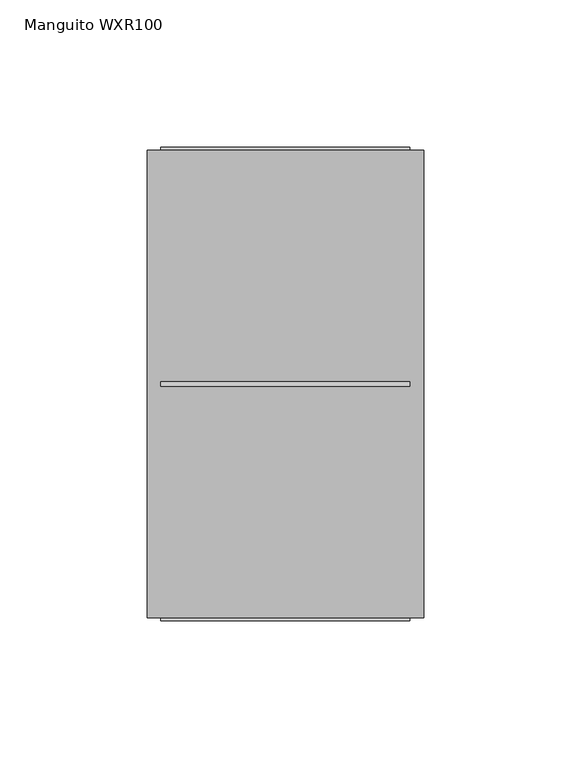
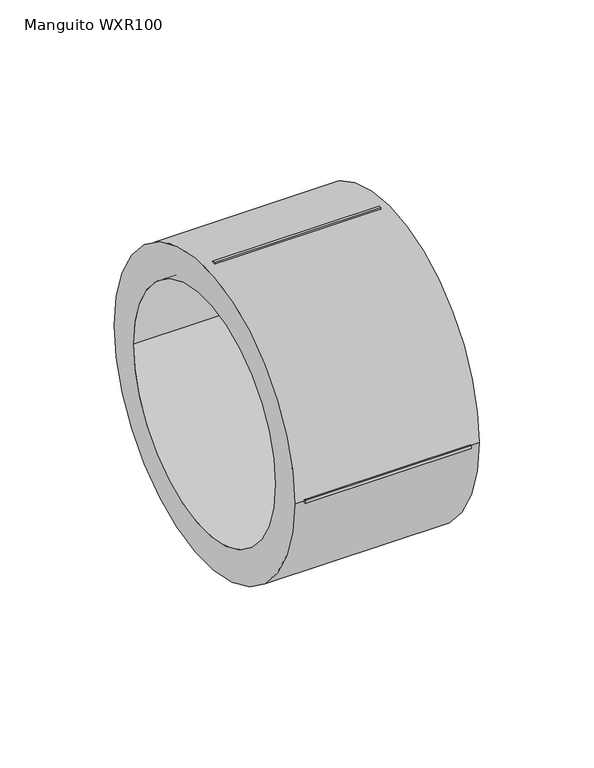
"""IFC4 building model written with IfcOpenShell, lengths in millimetres: pipe fitting geometry, EGB_VASEN_ PPR_Manguito WXR100 : Manguito WXR100."""

from ifc_helpers import new_model, si_unit, point, frame, origin, origin_2d, place, context, project, spatial, polyline, circle_curve, trimmed, segment, composite_curve, outline, extrude, source, transform, mapped, element, save


def manguito_wxr100_bebf1059(model_context):
    return source(origin(), model_context, "Body", "SweptSolid", [
        extrude(outline(composite_curve([segment(trimmed(circle_curve(origin_2d(), 79.5), [point((-79.5, 0.0))], [point((79.5, 0.0))], False, "CARTESIAN"), True, "CONTINUOUS"), segment(trimmed(circle_curve(origin_2d(), 79.5), [point((79.5, 0.0))], [point((-79.5, 0.0))], False, "CARTESIAN"), True, "CONTINUOUS")], self_intersect=False), holes=[composite_curve([segment(trimmed(circle_curve(origin_2d(), 62.5), [point((-62.5, 0.0))], [point((62.5, 0.0))], True, "CARTESIAN"), True, "CONTINUOUS"), segment(trimmed(circle_curve(origin_2d(), 62.5), [point((62.5, 0.0))], [point((-62.5, 0.0))], True, "CARTESIAN"), True, "CONTINUOUS")], self_intersect=False)]), frame((-47.0, 0.0, 0.0), z_axis=(1.0, 0.0, 0.0), x_axis=(0.0, 1.0, 0.0)), (0.0, 0.0, 1.0), 94.0),
        extrude(outline(polyline([(42.3, 0.75), (42.3, -0.75), (-42.3, -0.75), (-42.3, 0.75), (42.3, 0.75)])), frame((0.0, 0.0, 78.5), z_axis=(0.0, 0.0, 1.0), x_axis=(1.0, 0.0, 0.0)), (0.0, 0.0, 1.0), 2.0),
        extrude(outline(polyline([(42.3, 0.75), (42.3, -0.75), (-42.3, -0.75), (-42.3, 0.75), (42.3, 0.75)])), frame((0.0, 0.0, -80.5), z_axis=(0.0, 0.0, 1.0), x_axis=(1.0, 0.0, 0.0)), (0.0, 0.0, 1.0), 2.0),
        extrude(outline(polyline([(42.3, 80.5), (42.3, 78.5), (-42.3, 78.5), (-42.3, 80.5), (42.3, 80.5)])), frame((0.0, 0.0, -0.75), z_axis=(0.0, 0.0, 1.0), x_axis=(1.0, 0.0, 0.0)), (0.0, 0.0, 1.0), 1.5),
        extrude(outline(polyline([(42.3, -78.5), (42.3, -80.5), (-42.3, -80.5), (-42.3, -78.5), (42.3, -78.5)])), frame((0.0, 0.0, -0.75), z_axis=(0.0, 0.0, 1.0), x_axis=(1.0, 0.0, 0.0)), (0.0, 0.0, 1.0), 1.5),
    ])


if __name__ == "__main__":
    model = new_model("IFC4")
    model_context = context("Model", 3, world=origin())
    ifc_project = project(units=[si_unit("LENGTHUNIT", "METRE", prefix="MILLI")], contexts=[model_context])
    site = spatial("IfcSite", under=ifc_project)
    building = spatial("IfcBuilding", under=site)
    placement = place(None, origin())
    manguito_wxr100_shape = manguito_wxr100_bebf1059(model_context)
    element("IfcPipeFitting", 1, ObjectType="EGB_VASEN_ PPR_Manguito WXR100 : Manguito WXR100", at=placement, inside=building, context=model_context, shape_type="MappedRepresentation", body=[
        mapped(manguito_wxr100_shape, transform((0.0, 0.0, 0.0), x_axis=(1.0, 0.0, 0.0), y_axis=(0.0, 1.0, 0.0), z_axis=(0.0, 0.0, 1.0))),
    ])
    save(model, "model.ifc")
